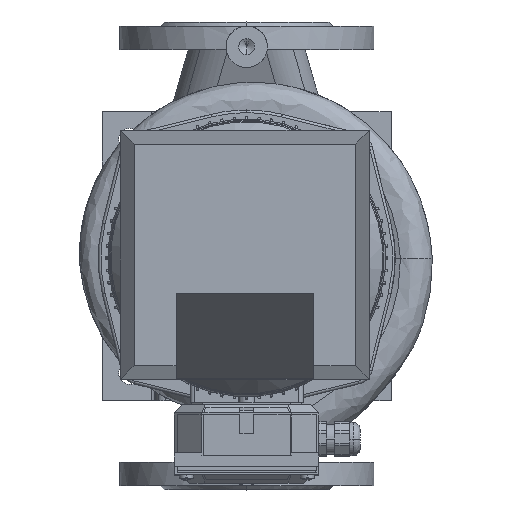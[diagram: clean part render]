
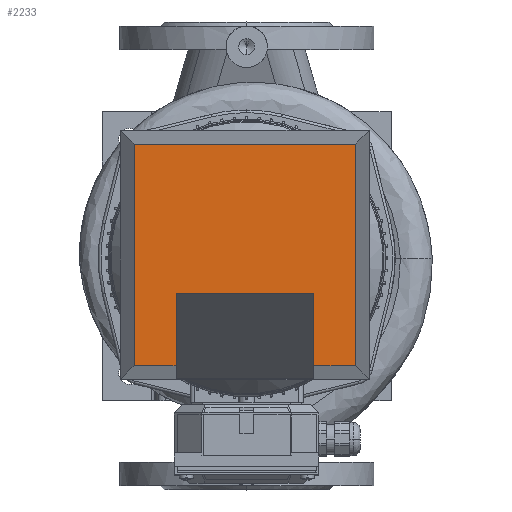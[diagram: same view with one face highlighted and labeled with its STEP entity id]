
A CAD part, top view. The second image highlights one B-rep face of the part: STEP entity #2233.
In plain terms, the highlighted planar face has unit normal (0, 0, 1) as drawn and (0, 1, 0) by its records, which use the part's own axes.
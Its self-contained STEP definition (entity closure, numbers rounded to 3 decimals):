
#2233=ADVANCED_FACE('',(#4152),#4153,.T.);
#2243=EDGE_CURVE('',#4165,#4168,#4169,.T.);
#4152=FACE_OUTER_BOUND('',#10467,.T.);
#4153=PLANE('',#10468);
#4165=VERTEX_POINT('',#10481);
#4168=VERTEX_POINT('',#10486);
#4169=LINE('',#10487,#10488);
#10467=EDGE_LOOP('',(#18167,#18168,#18169,#18170,#18171,#18172,#18173,#18174));
#10468=AXIS2_PLACEMENT_3D('',#18175,#18176,#18177);
#10481=CARTESIAN_POINT('',(50.0,114.0,118.64));
#10486=CARTESIAN_POINT('',(50.0,114.0,171.0));
#10487=CARTESIAN_POINT('',(50.0,114.0,90.179));
#10488=VECTOR('',#18203,1.0);
#18167=ORIENTED_EDGE('',*,*,#2243,.T.);
#18168=ORIENTED_EDGE('',*,*,#30788,.F.);
#18169=ORIENTED_EDGE('',*,*,#30796,.F.);
#18170=ORIENTED_EDGE('',*,*,#30798,.F.);
#18171=ORIENTED_EDGE('',*,*,#30790,.F.);
#18172=ORIENTED_EDGE('',*,*,#30784,.F.);
#18173=ORIENTED_EDGE('',*,*,#30777,.T.);
#18174=ORIENTED_EDGE('',*,*,#30780,.T.);
#18175=CARTESIAN_POINT('',(0.0,114.0,0.0));
#18176=DIRECTION('',(0.0,1.0,-0.0));
#18177=DIRECTION('',(-1.0,0.0,0.0));
#18203=DIRECTION('',(0.0,0.0,1.0));
#30777=EDGE_CURVE('',#48866,#48868,#48870,.T.);
#30780=EDGE_CURVE('',#48868,#4165,#48873,.T.);
#30784=EDGE_CURVE('',#48866,#48877,#48878,.T.);
#30788=EDGE_CURVE('',#48883,#4168,#48885,.T.);
#30790=EDGE_CURVE('',#48877,#48887,#48888,.T.);
#30796=EDGE_CURVE('',#48893,#48883,#48895,.T.);
#30798=EDGE_CURVE('',#48887,#48893,#48897,.T.);
#48866=VERTEX_POINT('',#57876);
#48868=VERTEX_POINT('',#57879);
#48870=LINE('',#57882,#57883);
#48873=LINE('',#57887,#57888);
#48877=VERTEX_POINT('',#57893);
#48878=LINE('',#57894,#57895);
#48883=VERTEX_POINT('',#57902);
#48885=LINE('',#57905,#57906);
#48887=VERTEX_POINT('',#57908);
#48888=LINE('',#57909,#57910);
#48893=VERTEX_POINT('',#57918);
#48895=LINE('',#57921,#57922);
#48897=LINE('',#57924,#57925);
#57876=CARTESIAN_POINT('',(-50.0,114.0,171.0));
#57879=CARTESIAN_POINT('',(-50.0,114.0,118.64));
#57882=CARTESIAN_POINT('',(-50.0,114.0,90.179));
#57883=VECTOR('',#67618,1.0);
#57887=CARTESIAN_POINT('',(25.0,114.0,118.64));
#57888=VECTOR('',#67620,1.0);
#57893=CARTESIAN_POINT('',(-80.5,114.0,171.0));
#57894=CARTESIAN_POINT('',(45.25,114.0,171.0));
#57895=VECTOR('',#67622,1.0);
#57902=CARTESIAN_POINT('',(80.5,114.0,171.0));
#57905=CARTESIAN_POINT('',(45.25,114.0,171.0));
#57906=VECTOR('',#67626,1.0);
#57908=CARTESIAN_POINT('',(-80.5,114.0,10.0));
#57909=CARTESIAN_POINT('',(-80.5,114.0,0.0));
#57910=VECTOR('',#67627,1.0);
#57918=CARTESIAN_POINT('',(80.5,114.0,10.0));
#57921=CARTESIAN_POINT('',(80.5,114.0,0.0));
#57922=VECTOR('',#67632,1.0);
#57924=CARTESIAN_POINT('',(45.25,114.0,10.0));
#57925=VECTOR('',#67633,1.0);
#67618=DIRECTION('',(-0.0,0.0,-1.0));
#67620=DIRECTION('',(1.0,-0.0,0.0));
#67622=DIRECTION('',(-1.0,0.0,-0.0));
#67626=DIRECTION('',(-1.0,0.0,-0.0));
#67627=DIRECTION('',(-0.0,-0.0,-1.0));
#67632=DIRECTION('',(-0.0,0.0,1.0));
#67633=DIRECTION('',(1.0,-0.0,-0.0));
